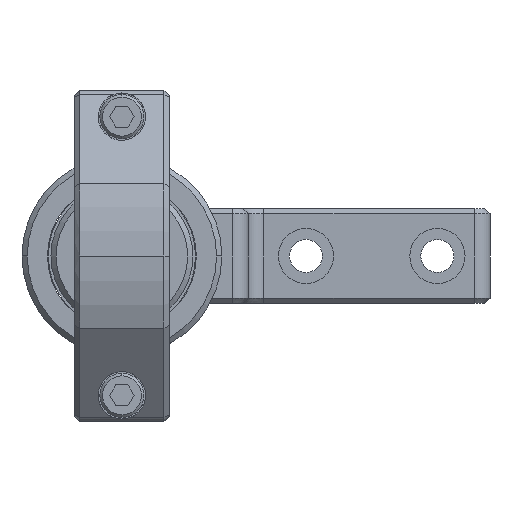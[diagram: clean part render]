
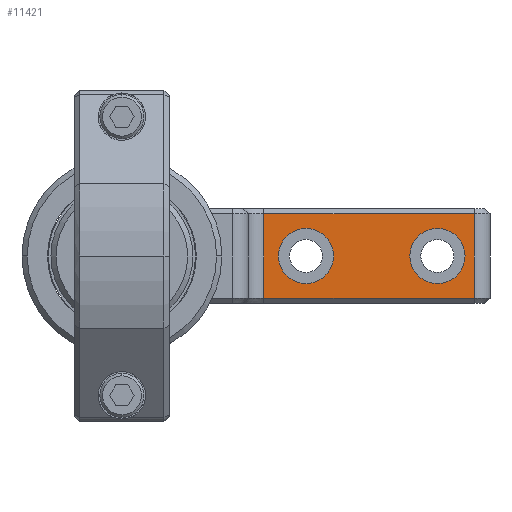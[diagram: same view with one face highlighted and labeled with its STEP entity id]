
A CAD part, left-side view. The second image highlights one B-rep face of the part: STEP entity #11421.
In plain terms, the highlighted planar face has unit normal (-1, 0, 0).
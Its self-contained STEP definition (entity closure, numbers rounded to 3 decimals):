
#437 = EDGE_LOOP ( 'NONE', ( #17076, #16996 ) ) ;
#529 = CARTESIAN_POINT ( 'NONE',  ( 11.406, -34.873, 1. ) ) ;
#616 = CARTESIAN_POINT ( 'NONE',  ( 11.406, -2.873, 14.25 ) ) ;
#638 = EDGE_CURVE ( 'NONE', #9823, #1155, #14155, .T. ) ;
#649 = CARTESIAN_POINT ( 'NONE',  ( 11.406, -34.873, 18. ) ) ;
#846 = ORIENTED_EDGE ( 'NONE', *, *, #638, .F. ) ;
#1155 = VERTEX_POINT ( 'NONE', #529 ) ;
#1331 = AXIS2_PLACEMENT_3D ( 'NONE', #2264, #22858, #17972 ) ;
#1876 = VECTOR ( 'NONE', #6698, 1000. ) ;
#1991 = EDGE_CURVE ( 'NONE', #18749, #23033, #2556, .T. ) ;
#2264 = CARTESIAN_POINT ( 'NONE',  ( 11.406, -27.873, 9. ) ) ;
#2266 = CARTESIAN_POINT ( 'NONE',  ( 11.406, -27.873, 14.25 ) ) ;
#2342 = ORIENTED_EDGE ( 'NONE', *, *, #11991, .T. ) ;
#2556 = CIRCLE ( 'NONE', #1331, 5.25 ) ;
#3128 = PLANE ( 'NONE',  #17909 ) ;
#3535 = CARTESIAN_POINT ( 'NONE',  ( 11.406, 5.127, 17. ) ) ;
#4527 = CIRCLE ( 'NONE', #23059, 5.25 ) ;
#4784 = EDGE_CURVE ( 'NONE', #23033, #18749, #10671, .T. ) ;
#4814 = CARTESIAN_POINT ( 'NONE',  ( 11.406, 5.127, 1. ) ) ;
#4979 = CARTESIAN_POINT ( 'NONE',  ( 11.406, -34.873, 18. ) ) ;
#5186 = AXIS2_PLACEMENT_3D ( 'NONE', #6990, #23538, #21076 ) ;
#5519 = DIRECTION ( 'NONE',  ( 0., 0., -1. ) ) ;
#5556 = DIRECTION ( 'NONE',  ( 0., 0., -1. ) ) ;
#6447 = VERTEX_POINT ( 'NONE', #9411 ) ;
#6674 = VECTOR ( 'NONE', #5556, 1000. ) ;
#6698 = DIRECTION ( 'NONE',  ( 0., 1., 0. ) ) ;
#6990 = CARTESIAN_POINT ( 'NONE',  ( 11.406, -2.873, 9. ) ) ;
#7038 = VECTOR ( 'NONE', #8482, 1000. ) ;
#7293 = VERTEX_POINT ( 'NONE', #4814 ) ;
#7486 = CIRCLE ( 'NONE', #5186, 5.25 ) ;
#7939 = CARTESIAN_POINT ( 'NONE',  ( 11.406, 5.127, 18. ) ) ;
#8173 = AXIS2_PLACEMENT_3D ( 'NONE', #20367, #17935, #15486 ) ;
#8482 = DIRECTION ( 'NONE',  ( 0., -1., 0. ) ) ;
#8774 = EDGE_CURVE ( 'NONE', #7293, #1155, #13353, .T. ) ;
#9112 = CARTESIAN_POINT ( 'NONE',  ( 11.406, 5.127, 17. ) ) ;
#9411 = CARTESIAN_POINT ( 'NONE',  ( 11.406, -2.873, 3.75 ) ) ;
#9744 = CARTESIAN_POINT ( 'NONE',  ( 11.406, -27.873, 3.75 ) ) ;
#9823 = VERTEX_POINT ( 'NONE', #17380 ) ;
#9876 = FACE_BOUND ( 'NONE', #437, .T. ) ;
#10387 = LINE ( 'NONE', #7939, #21739 ) ;
#10456 = VERTEX_POINT ( 'NONE', #616 ) ;
#10671 = CIRCLE ( 'NONE', #8173, 5.25 ) ;
#10929 = CARTESIAN_POINT ( 'NONE',  ( 11.406, -34.873, 1. ) ) ;
#11008 = EDGE_CURVE ( 'NONE', #20316, #7293, #10387, .T. ) ;
#11421 = ADVANCED_FACE ( 'NONE', ( #9876, #13570, #16677 ), #3128, .F. ) ;
#11934 = ORIENTED_EDGE ( 'NONE', *, *, #21793, .F. ) ;
#11991 = EDGE_CURVE ( 'NONE', #9823, #20316, #16473, .T. ) ;
#12970 = EDGE_CURVE ( 'NONE', #6447, #10456, #4527, .T. ) ;
#13353 = LINE ( 'NONE', #10929, #7038 ) ;
#13570 = FACE_BOUND ( 'NONE', #18913, .T. ) ;
#14155 = LINE ( 'NONE', #4979, #6674 ) ;
#14735 = DIRECTION ( 'NONE',  ( 0., 0., 1. ) ) ;
#14746 = ORIENTED_EDGE ( 'NONE', *, *, #12970, .F. ) ;
#15486 = DIRECTION ( 'NONE',  ( 0., 0., 1. ) ) ;
#15546 = ORIENTED_EDGE ( 'NONE', *, *, #8774, .T. ) ;
#16473 = LINE ( 'NONE', #9112, #1876 ) ;
#16677 = FACE_OUTER_BOUND ( 'NONE', #23063, .T. ) ;
#16996 = ORIENTED_EDGE ( 'NONE', *, *, #4784, .F. ) ;
#17076 = ORIENTED_EDGE ( 'NONE', *, *, #1991, .F. ) ;
#17193 = DIRECTION ( 'NONE',  ( -1., 0., 0. ) ) ;
#17380 = CARTESIAN_POINT ( 'NONE',  ( 11.406, -34.873, 17. ) ) ;
#17909 = AXIS2_PLACEMENT_3D ( 'NONE', #649, #22123, #19697 ) ;
#17935 = DIRECTION ( 'NONE',  ( -1., 0., 0. ) ) ;
#17972 = DIRECTION ( 'NONE',  ( 0., 0., 1. ) ) ;
#18749 = VERTEX_POINT ( 'NONE', #2266 ) ;
#18913 = EDGE_LOOP ( 'NONE', ( #11934, #14746 ) ) ;
#19667 = CARTESIAN_POINT ( 'NONE',  ( 11.406, -2.873, 9. ) ) ;
#19697 = DIRECTION ( 'NONE',  ( 0., 1., 0. ) ) ;
#20316 = VERTEX_POINT ( 'NONE', #3535 ) ;
#20367 = CARTESIAN_POINT ( 'NONE',  ( 11.406, -27.873, 9. ) ) ;
#21076 = DIRECTION ( 'NONE',  ( 0., 0., 1. ) ) ;
#21739 = VECTOR ( 'NONE', #5519, 1000. ) ;
#21793 = EDGE_CURVE ( 'NONE', #10456, #6447, #7486, .T. ) ;
#21896 = ORIENTED_EDGE ( 'NONE', *, *, #11008, .T. ) ;
#22123 = DIRECTION ( 'NONE',  ( 1., 0., 0. ) ) ;
#22858 = DIRECTION ( 'NONE',  ( -1., 0., 0. ) ) ;
#23033 = VERTEX_POINT ( 'NONE', #9744 ) ;
#23059 = AXIS2_PLACEMENT_3D ( 'NONE', #19667, #17193, #14735 ) ;
#23063 = EDGE_LOOP ( 'NONE', ( #21896, #15546, #846, #2342 ) ) ;
#23538 = DIRECTION ( 'NONE',  ( -1., 0., 0. ) ) ;
